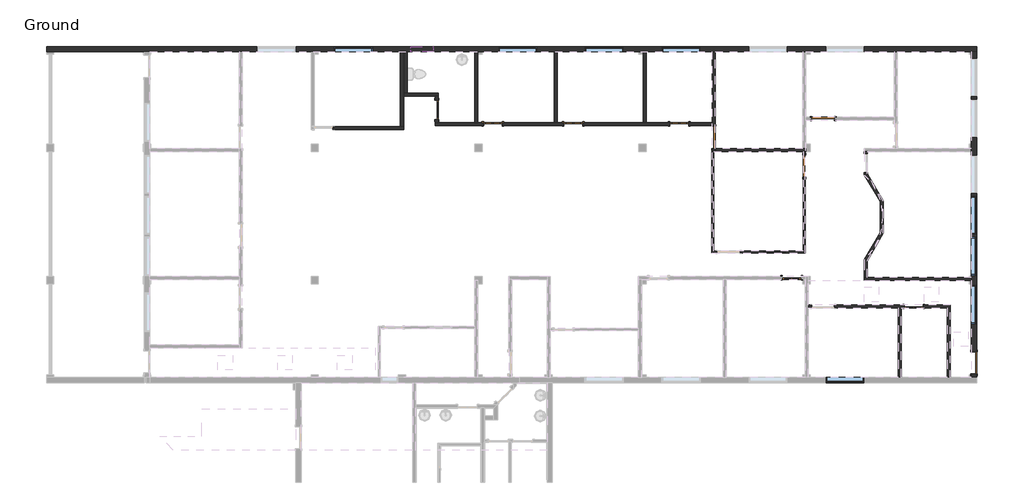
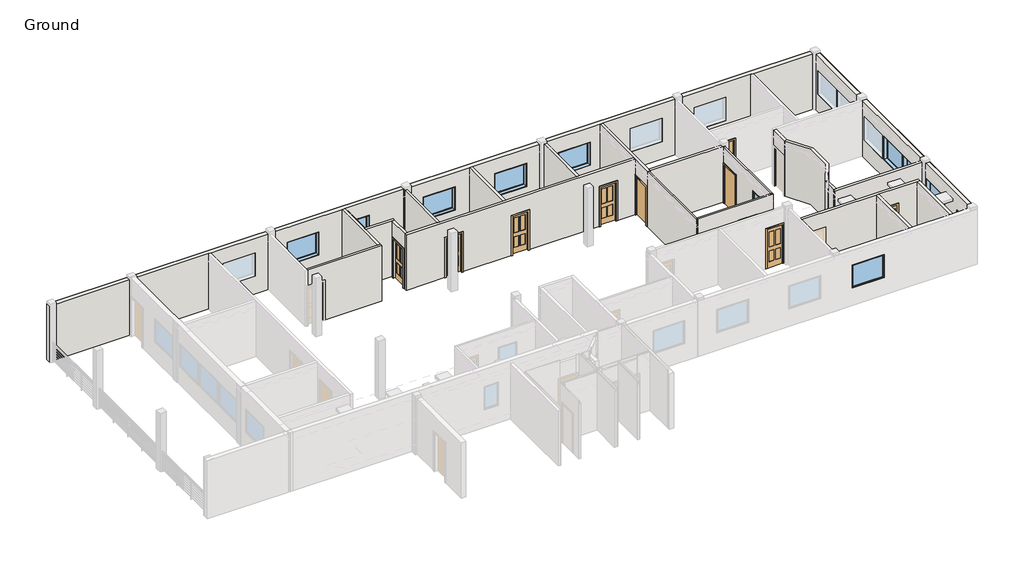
# One storey, part 3 of 4: 23 walls, 11 windows, 10 doors.
"""IFC4 building model written with IfcOpenShell, lengths in millimetres."""

from ifc_helpers import new_model, si_unit, point, frame, frame_2d, origin, origin_with_axes, place, context, project, spatial, polyline, circle_curve, trimmed, segment, composite_curve, outline, extrude, faceted_brep, transform, mapped, element, save
from components import door_43f271b1, door_0f3f7c0c, door_c0366a91, door_dce19e30, door_bfc1a142, door_dc1c1a0d, door_238e255b, fixed_3_x_3_w3_42a4cb5f, window_74e4fc61, window_a0bf6c86

model = new_model("IFC4")

# Units and contexts
model_context = context("Model", 3, world=origin())
ifc_project = project(units=[si_unit("LENGTHUNIT", "METRE", prefix="MILLI")], contexts=[model_context])

# Site, building, storey
site = spatial("IfcSite", under=ifc_project)
building = spatial("IfcBuilding", under=site)
storey = spatial("IfcBuildingStorey", under=building, Name="Ground", Elevation=0.0)

# Doors
placement = place(None, origin())
door_shape = door_43f271b1(model_context)
element("IfcDoor", 1, ObjectType="Single-Flush : 36\" x 80\" - D1", at=placement, inside=storey, context=model_context, shape_type="MappedRepresentation", body=[
    mapped(door_shape, transform((-16750.902824, 18800.73529, 0.0), x_axis=(0.0, -0.9999999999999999, 0.0), y_axis=(0.9999999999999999, 0.0, 0.0), z_axis=(0.0, 0.0, 1.0))),
])
door_2_shape = door_0f3f7c0c(model_context)
element("IfcDoor", 2, ObjectType="Single-Flush : 36\" x 80\" - D1", at=placement, inside=storey, context=model_context, shape_type="MappedRepresentation", body=[
    mapped(door_2_shape, transform((-12274.152824, 19570.67279, 0.0), x_axis=(-1.0, 0.0, 0.0), y_axis=(0.0, -1.0, 0.0), z_axis=(0.0, 0.0, 1.0))),
])
door_3_shape = door_c0366a91(model_context)
element("IfcDoor", 3, ObjectType="Single-Flush : 36\" x 80\" - D1", at=placement, inside=storey, context=model_context, shape_type="MappedRepresentation", body=[
    mapped(door_3_shape, transform((-13044.090324, 17627.57279, 0.0), x_axis=(0.0, 1.0, 0.0), y_axis=(-1.0, 0.0, 0.0), z_axis=(0.0, 0.0, 1.0))),
])
door_4_shape = door_dce19e30(model_context)
element("IfcDoor", 4, ObjectType="Single-Flush : 36\" x 80\" - D1", at=placement, inside=storey, context=model_context, shape_type="MappedRepresentation", body=[
    mapped(door_4_shape, transform((-6095.602824, 9569.42279, 0.0), x_axis=(0.0, -0.9999999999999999, 0.0), y_axis=(0.9999999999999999, 0.0, 0.0), z_axis=(0.0, 0.0, 1.0))),
])
door_5_shape = door_bfc1a142(model_context)
element("IfcDoor", 5, ObjectType="Single-Glass 3 : 30\" x 80\" - D3", at=placement, inside=storey, context=model_context, shape_type="MappedRepresentation", body=[
    mapped(door_5_shape, transform((-25786.952824, 19354.77279, 0.0), x_axis=(-1.0, 0.0, 0.0), y_axis=(0.0, -1.0, 0.0), z_axis=(0.0, 0.0, 1.0))),
])
element("IfcDoor", 6, ObjectType="Single-Glass 3 : 30\" x 80\" - D3", at=placement, inside=storey, context=model_context, shape_type="MappedRepresentation", body=[
    mapped(door_5_shape, transform((-13556.852824, 13055.57279, 0.0), x_axis=(1.0, 0.0, 0.0), y_axis=(0.0, 1.0, 0.0), z_axis=(0.0, 0.0, 1.0))),
])
element("IfcDoor", 7, ObjectType="Single-Glass 3 : 30\" x 80\" - D3", at=placement, inside=storey, context=model_context, shape_type="MappedRepresentation", body=[
    mapped(door_5_shape, transform((-22497.652824, 19354.77279, 0.0), x_axis=(-1.0, 0.0, 0.0), y_axis=(0.0, -1.0, 0.0), z_axis=(0.0, 0.0, 1.0))),
])
door_6_shape = door_dc1c1a0d(model_context)
element("IfcDoor", 8, ObjectType="Single-Glass 3 : 30\" x 80\" - D3", at=placement, inside=storey, context=model_context, shape_type="MappedRepresentation", body=[
    mapped(door_6_shape, transform((-8567.340324, 11880.82279, 0.0), x_axis=(-0.9999999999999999, 0.0, 0.0), y_axis=(0.0, -0.9999999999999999, 0.0), z_axis=(0.0, 0.0, 1.0))),
])
element("IfcDoor", 9, ObjectType="Single-Glass 3 : 30\" x 80\" - D3", at=placement, inside=storey, context=model_context, shape_type="MappedRepresentation", body=[
    mapped(door_6_shape, transform((-18159.809074, 19354.77279, 0.0), x_axis=(1.0, 0.0, 0.0), y_axis=(0.0, 1.0, 0.0), z_axis=(0.0, 0.0, 1.0))),
])
door_7_shape = door_238e255b(model_context)
element("IfcDoor", 10, ObjectType="Single-Glass 3 : 32\" x 80\" - D2", at=placement, inside=storey, context=model_context, shape_type="MappedRepresentation", body=[
    mapped(door_7_shape, transform((-28079.302824, 19932.62279, 0.0), x_axis=(0.0, -1.0, 0.0), y_axis=(1.0, 0.0, 0.0), z_axis=(0.0, 0.0, 1.0))),
])

# Walls
element("IfcWall", 11, ObjectType="Generic - 6\"", at=placement, inside=storey, context=model_context, shape_type="SweptSolid", body=[
    extrude(outline(polyline([(-29439.790324, 20623.18529), (-29439.790324, 22307.52279), (-29287.390324, 22307.52279), (-29287.390324, 20623.18529), (-29439.790324, 20623.18529)])), origin_with_axes(), (0.0, 0.0, 1.0), 2743.2),
])
element("IfcWall", 12, ObjectType="Generic - 8\" Masonry existing", at=placement, inside=storey, context=model_context, shape_type="Brep", body=[
    faceted_brep([(-44043.202824, 22307.52279, 0.0), (-44043.202824, 22307.52279, 2895.6), (-44043.202824, 22513.89779, 2895.6), (-44043.202824, 22526.59779, 2895.6), (-44043.202824, 22526.59779, 0.0), (-5986.065324, 22307.52279, 0.0), (-6205.140324, 22307.52279, 0.0), (-9248.377824, 22307.52279, 0.0), (-9372.202824, 22307.52279, 0.0), (-12982.177824, 22307.52279, 0.0), (-13106.002824, 22307.52279, 0.0), (-16688.990324, 22307.52279, 0.0), (-16812.815324, 22307.52279, 0.0), (-19506.802824, 22307.52279, 0.0), (-19630.627824, 22307.52279, 0.0), (-23140.590324, 22307.52279, 0.0), (-23264.415324, 22307.52279, 0.0), (-26393.377824, 22307.52279, 0.0), (-26517.202824, 22307.52279, 0.0), (-29287.390324, 22307.52279, 0.0), (-29439.790324, 22307.52279, 0.0), (-29563.615324, 22307.52279, 0.0), (-33098.977824, 22307.52279, 0.0), (-33222.802824, 22307.52279, 0.0), (-36042.202824, 22307.52279, 0.0), (-36166.027824, 22307.52279, 0.0), (-39818.865324, 22307.52279, 0.0), (-40037.940324, 22307.52279, 0.0), (-5986.065324, 22526.59779, 0.0), (-5986.065324, 22307.52279, 2895.6), (-5998.765324, 22307.52279, 2895.6), (-6205.140324, 22307.52279, 2895.6), (-9248.377824, 22307.52279, 2895.6), (-9372.202824, 22307.52279, 2895.6), (-12982.177824, 22307.52279, 2895.6), (-13106.002824, 22307.52279, 2895.6), (-16688.990324, 22307.52279, 2895.6), (-16812.815324, 22307.52279, 2895.6), (-19506.802824, 22307.52279, 2895.6), (-19630.627824, 22307.52279, 2895.6), (-23140.590324, 22307.52279, 2895.6), (-23264.415324, 22307.52279, 2895.6), (-26393.377824, 22307.52279, 2895.6), (-26517.202824, 22307.52279, 2895.6), (-29439.790324, 22307.52279, 2895.6), (-29563.615324, 22307.52279, 2895.6), (-33098.977824, 22307.52279, 2895.6), (-33222.802824, 22307.52279, 2895.6), (-36042.202824, 22307.52279, 2895.6), (-36166.027824, 22307.52279, 2895.6), (-28220.590324, 22307.52279, 2133.6), (-28220.590324, 22307.52279, 1219.2), (-29134.990324, 22307.52279, 1219.2), (-29134.990324, 22307.52279, 2133.6), (-17297.002824, 22307.52279, 2133.6), (-17297.002824, 22307.52279, 914.4), (-18871.802824, 22307.52279, 914.4), (-18871.802824, 22307.52279, 2133.6), (-20446.602824, 22307.52279, 2133.6), (-20446.602824, 22307.52279, 914.4), (-22021.402824, 22307.52279, 914.4), (-22021.402824, 22307.52279, 2133.6), (-10591.402824, 22307.52279, 2133.6), (-10591.402824, 22307.52279, 914.4), (-12166.202824, 22307.52279, 914.4), (-12166.202824, 22307.52279, 2133.6), (-13741.002824, 22307.52279, 2133.6), (-13741.002824, 22307.52279, 914.4), (-15315.802824, 22307.52279, 914.4), (-15315.802824, 22307.52279, 2133.6), (-23977.202824, 22307.52279, 2133.6), (-23977.202824, 22307.52279, 914.4), (-25552.002824, 22307.52279, 914.4), (-25552.002824, 22307.52279, 2133.6), (-30708.202824, 22307.52279, 2133.6), (-30708.202824, 22307.52279, 914.4), (-32283.002824, 22307.52279, 914.4), (-32283.002824, 22307.52279, 2133.6), (-33857.802824, 22307.52279, 2133.6), (-33857.802824, 22307.52279, 914.4), (-35432.602824, 22307.52279, 914.4), (-35432.602824, 22307.52279, 2133.6), (-5998.765324, 22526.59779, 2895.6), (-5986.065324, 22526.59779, 2895.6), (-28220.590324, 22526.59779, 2133.6), (-29134.990324, 22526.59779, 2133.6), (-29134.990324, 22526.59779, 1219.2), (-28220.590324, 22526.59779, 1219.2), (-17297.002824, 22526.59779, 2133.6), (-18871.802824, 22526.59779, 2133.6), (-18871.802824, 22526.59779, 914.4), (-17297.002824, 22526.59779, 914.4), (-20446.602824, 22526.59779, 2133.6), (-22021.402824, 22526.59779, 2133.6), (-22021.402824, 22526.59779, 914.4), (-20446.602824, 22526.59779, 914.4), (-10591.402824, 22526.59779, 2133.6), (-12166.202824, 22526.59779, 2133.6), (-12166.202824, 22526.59779, 914.4), (-10591.402824, 22526.59779, 914.4), (-13741.002824, 22526.59779, 2133.6), (-15315.802824, 22526.59779, 2133.6), (-15315.802824, 22526.59779, 914.4), (-13741.002824, 22526.59779, 914.4), (-23977.202824, 22526.59779, 2133.6), (-25552.002824, 22526.59779, 2133.6), (-25552.002824, 22526.59779, 914.4), (-23977.202824, 22526.59779, 914.4), (-30708.202824, 22526.59779, 2133.6), (-32283.002824, 22526.59779, 2133.6), (-32283.002824, 22526.59779, 914.4), (-30708.202824, 22526.59779, 914.4), (-33857.802824, 22526.59779, 2133.6), (-35432.602824, 22526.59779, 2133.6), (-35432.602824, 22526.59779, 914.4), (-33857.802824, 22526.59779, 914.4), (-5986.065324, 22513.89779, 2895.6), (-5998.765324, 22513.89779, 2895.6)], [[[0, 1, 2, 3, 4]], [[5, 6, 7, 8, 9, 10, 11, 12, 13, 14, 15, 16, 17, 18, 19, 20, 21, 22, 23, 24, 25, 26, 27, 0, 4, 28]], [[0, 27, 26, 25, 24, 23, 22, 21, 20, 19, 18, 17, 16, 15, 14, 13, 12, 11, 10, 9, 8, 7, 6, 5, 29, 30, 31, 32, 33, 34, 35, 36, 37, 38, 39, 40, 41, 42, 43, 44, 45, 46, 47, 48, 49, 1], [50, 51, 52, 53], [54, 55, 56, 57], [58, 59, 60, 61], [62, 63, 64, 65], [66, 67, 68, 69], [70, 71, 72, 73], [74, 75, 76, 77], [78, 79, 80, 81]], [[4, 3, 82, 83, 28], [84, 85, 86, 87], [88, 89, 90, 91], [92, 93, 94, 95], [96, 97, 98, 99], [100, 101, 102, 103], [104, 105, 106, 107], [108, 109, 110, 111], [112, 113, 114, 115]], [[29, 5, 28, 83, 116]], [[30, 29, 116, 117]], [[82, 3, 2, 117]], [[116, 83, 82, 117]], [[1, 49, 48, 47, 46, 45, 44, 43, 42, 41, 40, 39, 38, 37, 36, 35, 34, 33, 32, 31, 30, 117, 2]], [[51, 50, 84, 87]], [[52, 51, 87, 86]], [[53, 52, 86, 85]], [[50, 53, 85, 84]], [[55, 54, 88, 91]], [[56, 55, 91, 90]], [[57, 56, 90, 89]], [[54, 57, 89, 88]], [[59, 58, 92, 95]], [[60, 59, 95, 94]], [[61, 60, 94, 93]], [[58, 61, 93, 92]], [[63, 62, 96, 99]], [[64, 63, 99, 98]], [[65, 64, 98, 97]], [[62, 65, 97, 96]], [[67, 66, 100, 103]], [[68, 67, 103, 102]], [[69, 68, 102, 101]], [[66, 69, 101, 100]], [[71, 70, 104, 107]], [[72, 71, 107, 106]], [[73, 72, 106, 105]], [[70, 73, 105, 104]], [[75, 74, 108, 111]], [[76, 75, 111, 110]], [[77, 76, 110, 109]], [[74, 77, 109, 108]], [[79, 78, 112, 115]], [[80, 79, 115, 114]], [[81, 80, 114, 113]], [[78, 81, 113, 112]]]),
])
element("IfcWall", 13, ObjectType="Generic - 8\" Masonry existing", at=placement, inside=storey, context=model_context, shape_type="Brep", body=[
    faceted_brep([(-6205.140324, 8972.52279, 0.0), (-6205.140324, 9112.22279, 0.0), (-5986.065324, 9112.22279, 0.0), (-5986.065324, 8972.52279, 0.0), (-6205.140324, 10026.62279, 0.0), (-6205.140324, 12949.21029, 0.0), (-6205.140324, 13073.03529, 0.0), (-6205.140324, 18219.71029, 0.0), (-6205.140324, 18343.53529, 0.0), (-6205.140324, 22307.52279, 0.0), (-5986.065324, 22307.52279, 0.0), (-5986.065324, 10026.62279, 0.0), (-5986.065324, 9112.22279, 2032.0), (-5986.065324, 10026.62279, 2032.0), (-5986.065324, 22307.52279, 2895.6), (-5986.065324, 8972.52279, 2895.6), (-5986.065324, 11169.62279, 2133.6), (-5986.065324, 12744.42279, 2133.6), (-5986.065324, 12744.42279, 914.4), (-5986.065324, 11169.62279, 914.4), (-5986.065324, 13150.82279, 2133.6), (-5986.065324, 14725.62279, 2133.6), (-5986.065324, 14725.62279, 914.4), (-5986.065324, 13150.82279, 914.4), (-5986.065324, 14827.22279, 2133.6), (-5986.065324, 16402.02279, 2133.6), (-5986.065324, 16402.02279, 914.4), (-5986.065324, 14827.22279, 914.4), (-5986.065324, 16503.62279, 2133.6), (-5986.065324, 18078.42279, 2133.6), (-5986.065324, 18078.42279, 914.4), (-5986.065324, 16503.62279, 914.4), (-5986.065324, 18789.62279, 2133.6), (-5986.065324, 20364.42279, 2133.6), (-5986.065324, 20364.42279, 914.4), (-5986.065324, 18789.62279, 914.4), (-5986.065324, 20466.02279, 2133.6), (-5986.065324, 22040.82279, 2133.6), (-5986.065324, 22040.82279, 914.4), (-5986.065324, 20466.02279, 914.4), (-6205.140324, 9112.22279, 2032.0), (-6205.140324, 8972.52279, 2895.6), (-6205.140324, 12949.21029, 2895.6), (-6205.140324, 13073.03529, 2895.6), (-6205.140324, 18219.71029, 2895.6), (-6205.140324, 18343.53529, 2895.6), (-6205.140324, 22307.52279, 2895.6), (-6205.140324, 10026.62279, 2032.0), (-6205.140324, 11169.62279, 2133.6), (-6205.140324, 11169.62279, 914.4), (-6205.140324, 12744.42279, 914.4), (-6205.140324, 12744.42279, 2133.6), (-6205.140324, 13150.82279, 2133.6), (-6205.140324, 13150.82279, 914.4), (-6205.140324, 14725.62279, 914.4), (-6205.140324, 14725.62279, 2133.6), (-6205.140324, 14827.22279, 2133.6), (-6205.140324, 14827.22279, 914.4), (-6205.140324, 16402.02279, 914.4), (-6205.140324, 16402.02279, 2133.6), (-6205.140324, 16503.62279, 2133.6), (-6205.140324, 16503.62279, 914.4), (-6205.140324, 18078.42279, 914.4), (-6205.140324, 18078.42279, 2133.6), (-6205.140324, 18789.62279, 2133.6), (-6205.140324, 18789.62279, 914.4), (-6205.140324, 20364.42279, 914.4), (-6205.140324, 20364.42279, 2133.6), (-6205.140324, 20466.02279, 2133.6), (-6205.140324, 20466.02279, 914.4), (-6205.140324, 22040.82279, 914.4), (-6205.140324, 22040.82279, 2133.6), (-5998.765324, 22307.52279, 2895.6), (-5998.765324, 8972.52279, 2895.6)], [[[0, 1, 2, 3]], [[4, 5, 6, 7, 8, 9, 10, 11]], [[3, 2, 12, 13, 11, 10, 14, 15], [16, 17, 18, 19], [20, 21, 22, 23], [24, 25, 26, 27], [28, 29, 30, 31], [32, 33, 34, 35], [36, 37, 38, 39]], [[40, 1, 0, 41, 42, 43, 44, 45, 46, 9, 8, 7, 6, 5, 4, 47], [48, 49, 50, 51], [52, 53, 54, 55], [56, 57, 58, 59], [60, 61, 62, 63], [64, 65, 66, 67], [68, 69, 70, 71]], [[14, 10, 9, 46, 72]], [[3, 15, 73, 41, 0]], [[15, 14, 72, 73]], [[72, 46, 45, 44, 43, 42, 41, 73]], [[12, 2, 1, 40]], [[13, 12, 40, 47]], [[11, 13, 47, 4]], [[49, 48, 16, 19]], [[50, 49, 19, 18]], [[51, 50, 18, 17]], [[48, 51, 17, 16]], [[53, 52, 20, 23]], [[54, 53, 23, 22]], [[55, 54, 22, 21]], [[52, 55, 21, 20]], [[57, 56, 24, 27]], [[58, 57, 27, 26]], [[59, 58, 26, 25]], [[56, 59, 25, 24]], [[61, 60, 28, 31]], [[62, 61, 31, 30]], [[63, 62, 30, 29]], [[60, 63, 29, 28]], [[65, 64, 32, 35]], [[66, 65, 35, 34]], [[67, 66, 34, 33]], [[64, 67, 33, 32]], [[69, 68, 36, 39]], [[70, 69, 39, 38]], [[71, 70, 38, 37]], [[68, 71, 37, 36]]]),
])
element("IfcWall", 14, ObjectType="Interior - 3 1/8\" Partition (1-hr)", at=placement, inside=storey, context=model_context, shape_type="Brep", body=[
    faceted_brep([(-16820.752824, 18219.71029, 0.0), (-16820.752824, 14071.57279, 0.0), (-16820.752824, 14071.57279, 2895.6), (-16820.752824, 18219.71029, 2895.6), (-16741.377824, 18219.71029, 0.0), (-16741.377824, 18219.71029, 2895.6), (-16741.377824, 14150.94779, 2895.6), (-16741.377824, 14071.57279, 2895.6), (-16741.377824, 14071.57279, 0.0), (-16741.377824, 14150.94779, 0.0), (-16812.815324, 18219.71029, 0.0), (-16812.815324, 18219.71029, 2895.6)], [[[0, 1, 2, 3]], [[4, 5, 6, 7, 8, 9]], [[1, 0, 10, 4, 9, 8]], [[3, 2, 7, 6, 5, 11]], [[2, 1, 8, 7]], [[0, 3, 11, 5, 4, 10]]]),
])
element("IfcWall", 15, ObjectType="Interior - 3 1/8\" Partition (1-hr)", at=placement, inside=storey, context=model_context, shape_type="Brep", body=[
    faceted_brep([(-16741.377824, 14071.57279, 0.0), (-16598.502824, 14071.57279, 0.0), (-16598.502824, 14071.57279, 2032.0), (-15684.102824, 14071.57279, 2032.0), (-15684.102824, 14071.57279, 0.0), (-13004.402824, 14071.57279, 0.0), (-13004.402824, 14071.57279, 2895.6), (-16741.377824, 14071.57279, 2895.6), (-14720.490324, 14071.57279, 2133.6), (-13806.090324, 14071.57279, 2133.6), (-13806.090324, 14071.57279, 914.4), (-14720.490324, 14071.57279, 914.4), (-16598.502824, 14150.94779, 2032.0), (-16598.502824, 14150.94779, 0.0), (-16741.377824, 14150.94779, 0.0), (-16741.377824, 14150.94779, 2895.6), (-13083.777824, 14150.94779, 2895.6), (-13004.402824, 14150.94779, 2895.6), (-13004.402824, 14150.94779, 0.0), (-13083.777824, 14150.94779, 0.0), (-15684.102824, 14150.94779, 0.0), (-15684.102824, 14150.94779, 2032.0), (-14720.490324, 14150.94779, 2133.6), (-14720.490324, 14150.94779, 914.4), (-13806.090324, 14150.94779, 914.4), (-13806.090324, 14150.94779, 2133.6)], [[[0, 1, 2, 3, 4, 5, 6, 7], [8, 9, 10, 11]], [[12, 13, 14, 15, 16, 17, 18, 19, 20, 21], [22, 23, 24, 25]], [[14, 13, 1, 0]], [[20, 19, 18, 5, 4]], [[7, 6, 17, 16, 15]], [[0, 7, 15, 14]], [[6, 5, 18, 17]], [[2, 1, 13, 12]], [[3, 2, 12, 21]], [[4, 3, 21, 20]], [[23, 22, 8, 11]], [[24, 23, 11, 10]], [[25, 24, 10, 9]], [[22, 25, 9, 8]]]),
])
element("IfcWall", 16, ObjectType="Interior - 3 1/8\" Partition (1-hr)", at=placement, inside=storey, context=model_context, shape_type="SweptSolid", body=[
    extrude(outline(polyline([(18219.71029, 0.0), (18084.77279, 0.0), (18084.77279, 2032.0), (17170.37279, 2032.0), (17170.37279, 0.0), (14150.94779, 0.0), (14150.94779, 2895.6), (18219.71029, 2895.6), (18219.71029, 0.0)]), holes=[polyline([(14760.54779, 2133.6), (14760.54779, 914.4), (15674.94779, 914.4), (15674.94779, 2133.6), (14760.54779, 2133.6)])]), frame((-13083.777824, 0.0, 0.0), z_axis=(1.0, 0.0, 0.0), x_axis=(0.0, 1.0, 0.0)), (0.0, 0.0, 1.0), 79.375),
])
element("IfcWall", 17, ObjectType="Interior - 5 1/2\" Partition (1-hr)", at=placement, inside=storey, context=model_context, shape_type="Brep", body=[
    faceted_brep([(-6205.140324, 13073.03529, 0.0), (-10467.577824, 13073.03529, 0.0), (-10591.402824, 13073.03529, 0.0), (-10591.402824, 13073.03529, 2895.6), (-10467.577824, 13073.03529, 2895.6), (-6205.140324, 13073.03529, 2895.6), (-6205.140324, 12949.21029, 0.0), (-6205.140324, 12949.21029, 2895.6), (-10591.402824, 12949.21029, 2895.6), (-10591.402824, 12949.21029, 0.0)], [[[0, 1, 2, 3, 4, 5]], [[6, 7, 8, 9]], [[2, 1, 0, 6, 9]], [[5, 4, 3, 8, 7]], [[3, 2, 9, 8]], [[0, 5, 7, 6]]]),
])
element("IfcWall", 18, ObjectType="Interior - 5 1/2\" Partition (1-hr)", at=placement, inside=storey, context=model_context, shape_type="Brep", body=[
    faceted_brep([(-12982.177824, 18343.53529, 0.0), (-13106.002824, 18343.53529, 0.0), (-16688.990324, 18343.53529, 0.0), (-16688.990324, 18343.53529, 2895.6), (-13106.002824, 18343.53529, 2895.6), (-12982.177824, 18343.53529, 2895.6), (-12982.177824, 18219.71029, 0.0), (-12982.177824, 18219.71029, 2895.6), (-13004.402824, 18219.71029, 2895.6), (-13083.777824, 18219.71029, 2895.6), (-16688.990324, 18219.71029, 2895.6), (-16688.990324, 18219.71029, 0.0), (-13083.777824, 18219.71029, 0.0), (-13004.402824, 18219.71029, 0.0)], [[[0, 1, 2, 3, 4, 5]], [[6, 7, 8, 9, 10, 11, 12, 13]], [[2, 1, 0, 6, 13, 12, 11]], [[5, 4, 3, 10, 9, 8, 7]], [[0, 5, 7, 6]], [[3, 2, 11, 10]]]),
])
element("IfcWall", 19, ObjectType="Interior - 5 1/2\" Partition (1-hr)", at=placement, inside=storey, context=model_context, shape_type="Brep", body=[
    faceted_brep([(-16812.815324, 18219.71029, 0.0), (-16812.815324, 18343.53529, 0.0), (-16688.990324, 18343.53529, 0.0), (-16688.990324, 18219.71029, 0.0), (-16741.377824, 18219.71029, 0.0), (-16812.815324, 19257.93529, 0.0), (-16812.815324, 19292.86029, 0.0), (-16812.815324, 19416.68529, 0.0), (-16812.815324, 22307.52279, 0.0), (-16688.990324, 22307.52279, 0.0), (-16688.990324, 19257.93529, 0.0), (-16688.990324, 18219.71029, 2895.6), (-16688.990324, 18343.53529, 2895.6), (-16688.990324, 22307.52279, 2895.6), (-16812.815324, 22307.52279, 2895.6), (-16812.815324, 19416.68529, 2895.6), (-16812.815324, 19292.86029, 2895.6), (-16812.815324, 18219.71029, 2895.6), (-16741.377824, 18219.71029, 2895.6), (-16688.990324, 18343.53529, 2032.0), (-16688.990324, 19257.93529, 2032.0), (-16812.815324, 18343.53529, 2032.0), (-16812.815324, 19257.93529, 2032.0)], [[[0, 1, 2, 3, 4]], [[5, 6, 7, 8, 9, 10]], [[11, 12, 13, 14, 15, 16, 17, 18]], [[3, 2, 19, 20, 10, 9, 13, 12, 11]], [[21, 1, 0, 17, 16, 15, 14, 8, 7, 6, 5, 22]], [[13, 9, 8, 14]], [[3, 11, 18, 17, 0, 4]], [[19, 2, 1, 21]], [[20, 19, 21, 22]], [[10, 20, 22, 5]]]),
])
element("IfcWall", 20, ObjectType="Interior - 5 1/2\" Partition (1-hr)", at=placement, inside=storey, context=model_context, shape_type="SweptSolid", body=[
    extrude(outline(composite_curve([segment(polyline([(-10467.577824, 13753.2813276), (-10591.402824, 13806.060194)]), True, "CONTINUOUS"), segment(trimmed(circle_curve(frame_2d((-12218.244142, 15538.42279)), 2376.4875), [point((-10591.402824, 13806.060194))], [point((-10591.402824, 17270.785386))], True, "CARTESIAN"), True, "CONTINUOUS"), segment(polyline([(-10591.402824, 17270.785386), (-10467.577824, 17323.5642525)]), True, "CONTINUOUS"), segment(trimmed(circle_curve(frame_2d((-12218.244142, 15538.42279)), 2500.3125), [point((-10467.577824, 17323.5642525))], [point((-10467.577824, 13753.2813276))], False, "CARTESIAN"), True, "CONTINUOUS")], self_intersect=False)), origin_with_axes(), (0.0, 0.0, 1.0), 2895.6),
])
element("IfcWall", 21, ObjectType="Interior - 5 1/2\" Partition (1-hr)", at=placement, inside=storey, context=model_context, shape_type="SweptSolid", body=[
    extrude(outline(polyline([(-10591.402824, 13073.03529), (-10591.402824, 13806.060194), (-10467.577824, 13753.2813276), (-10467.577824, 13073.03529), (-10591.402824, 13073.03529)])), origin_with_axes(), (0.0, 0.0, 1.0), 2895.6),
])
element("IfcWall", 22, ObjectType="Interior - 5 1/2\" Partition (1-hr)", at=placement, inside=storey, context=model_context, shape_type="Brep", body=[
    faceted_brep([(-10467.577824, 18219.71029, 0.0), (-10467.577824, 18135.4487735, 0.0), (-10591.402824, 18135.4487735, 0.0), (-10591.402824, 18219.71029, 0.0), (-10467.577824, 17373.4487735, 0.0), (-10467.577824, 17323.5642525, 0.0), (-10591.402824, 17270.785386, 0.0), (-10591.402824, 17373.4487735, 0.0), (-10591.402824, 18219.71029, 2895.6), (-10591.402824, 17270.785386, 2895.6), (-10467.577824, 17323.5642525, 2895.6), (-10467.577824, 18219.71029, 2895.6), (-10591.402824, 18135.4487735, 2032.0), (-10591.402824, 17373.4487735, 2032.0), (-10467.577824, 18135.4487735, 2032.0), (-10467.577824, 17373.4487735, 2032.0)], [[[0, 1, 2, 3]], [[4, 5, 6, 7]], [[8, 9, 10, 11]], [[3, 2, 12, 13, 7, 6, 9, 8]], [[14, 1, 0, 11, 10, 5, 4, 15]], [[9, 6, 5, 10]], [[3, 8, 11, 0]], [[12, 2, 1, 14]], [[13, 12, 14, 15]], [[7, 13, 15, 4]]]),
])
element("IfcWall", 23, ObjectType="Interior - 5 1/2\" Partition (1-hr)", at=placement, inside=storey, context=model_context, shape_type="Brep", body=[
    faceted_brep([(-29439.790324, 19242.06029, 0.0), (-29439.790324, 19118.23529, 0.0), (-32336.8538075, 19118.23529, 0.0), (-32336.8538075, 19242.06029, 0.0), (-29563.615324, 19242.06029, 0.0), (-33098.977824, 19118.23529, 2895.6), (-29439.790324, 19118.23529, 2895.6), (-29439.790324, 19242.06029, 2895.6), (-29563.615324, 19242.06029, 2895.6), (-33098.977824, 19242.06029, 2895.6), (-33098.977824, 19118.23529, 2032.0), (-32336.8538075, 19118.23529, 2032.0), (-32336.8538075, 19242.06029, 2032.0), (-33098.977824, 19242.06029, 2032.0)], [[[0, 1, 2, 3, 4]], [[5, 6, 7, 8, 9]], [[6, 5, 10, 11, 2, 1]], [[9, 8, 7, 0, 4, 3, 12, 13]], [[5, 9, 13, 10]], [[6, 1, 0, 7]], [[12, 11, 10, 13]], [[11, 12, 3, 2]]]),
])
element("IfcWall", 24, ObjectType="Interior - 5 1/2\" Partition (1-hr)", at=placement, inside=storey, context=model_context, shape_type="Brep", body=[
    faceted_brep([(-29439.790324, 19242.06029, 0.0), (-29439.790324, 20499.36029, 0.0), (-29439.790324, 20623.18529, 0.0), (-29439.790324, 22307.52279, 0.0), (-29439.790324, 22307.52279, 2895.6), (-29439.790324, 20623.18529, 2895.6), (-29439.790324, 20499.36029, 2895.6), (-29439.790324, 19242.06029, 2895.6), (-29563.615324, 19242.06029, 0.0), (-29563.615324, 19242.06029, 2895.6), (-29563.615324, 22307.52279, 2895.6), (-29563.615324, 22307.52279, 0.0)], [[[0, 1, 2, 3, 4, 5, 6, 7]], [[8, 9, 10, 11]], [[3, 2, 1, 0, 8, 11]], [[7, 6, 5, 4, 10, 9]], [[4, 3, 11, 10]], [[0, 7, 9, 8]]]),
])
element("IfcWall", 25, ObjectType="Interior - 5 1/2\" Partition (1-hr)", at=placement, inside=storey, context=model_context, shape_type="SweptSolid", body=[
    extrude(outline(polyline([(-26517.202824, 19416.68529), (-26517.202824, 22307.52279), (-26393.377824, 22307.52279), (-26393.377824, 19416.68529), (-26517.202824, 19416.68529)])), origin_with_axes(), (0.0, 0.0, 1.0), 2895.6),
])
element("IfcWall", 26, ObjectType="Interior - 5 1/2\" Partition (1-hr)", at=placement, inside=storey, context=model_context, shape_type="SweptSolid", body=[
    extrude(outline(polyline([(-23140.590324, 22307.52279), (-23140.590324, 19416.68529), (-23264.415324, 19416.68529), (-23264.415324, 22307.52279), (-23140.590324, 22307.52279)])), origin_with_axes(), (0.0, 0.0, 1.0), 2895.6),
])
element("IfcWall", 27, ObjectType="Interior - 5 1/2\" Partition (1-hr)", at=placement, inside=storey, context=model_context, shape_type="Brep", body=[
    faceted_brep([(-8948.2163075, 11942.73529, 2032.0), (-8948.2163075, 11942.73529, 0.0), (-11816.952824, 11942.73529, 0.0), (-11816.952824, 11942.73529, 2032.0), (-12731.352824, 11942.73529, 2032.0), (-12731.352824, 11942.73529, 0.0), (-12891.690324, 11942.73529, 0.0), (-12891.690324, 11942.73529, 2895.6), (-7071.915324, 11942.73529, 2895.6), (-7071.915324, 11942.73529, 0.0), (-8186.2163075, 11942.73529, 0.0), (-8186.2163075, 11942.73529, 2032.0), (-11816.952824, 11818.91029, 0.0), (-9207.102824, 11818.91029, 0.0), (-9083.277824, 11818.91029, 0.0), (-8948.2163075, 11818.91029, 0.0), (-8948.2163075, 11818.91029, 2032.0), (-8186.2163075, 11818.91029, 2032.0), (-8186.2163075, 11818.91029, 0.0), (-7195.740324, 11818.91029, 0.0), (-7071.915324, 11818.91029, 0.0), (-7071.915324, 11818.91029, 2895.6), (-7195.740324, 11818.91029, 2895.6), (-9083.277824, 11818.91029, 2895.6), (-9207.102824, 11818.91029, 2895.6), (-12891.690324, 11818.91029, 2895.6), (-12891.690324, 11818.91029, 0.0), (-12731.352824, 11818.91029, 0.0), (-12731.352824, 11818.91029, 2032.0), (-11816.952824, 11818.91029, 2032.0)], [[[0, 1, 2, 3, 4, 5, 6, 7, 8, 9, 10, 11]], [[12, 13, 14, 15, 16, 17, 18, 19, 20, 21, 22, 23, 24, 25, 26, 27, 28, 29]], [[6, 5, 27, 26]], [[2, 1, 15, 14, 13, 12]], [[10, 9, 20, 19, 18]], [[8, 7, 25, 24, 23, 22, 21]], [[9, 8, 21, 20]], [[7, 6, 26, 25]], [[28, 27, 5, 4]], [[29, 28, 4, 3]], [[12, 29, 3, 2]], [[16, 15, 1, 0]], [[17, 16, 0, 11]], [[18, 17, 11, 10]]]),
])
element("IfcWall", 28, ObjectType="Interior - 5 1/2\" Partition (1-hr)", at=placement, inside=storey, context=model_context, shape_type="SweptSolid", body=[
    extrude(outline(polyline([(-19630.627824, 19416.68529), (-19630.627824, 22307.52279), (-19506.802824, 22307.52279), (-19506.802824, 19416.68529), (-19630.627824, 19416.68529)])), origin_with_axes(), (0.0, 0.0, 1.0), 2895.6),
])
element("IfcWall", 29, ObjectType="Interior - 5 1/2\" Partition (1-hr)", at=placement, inside=storey, context=model_context, shape_type="Brep", body=[
    faceted_brep([(-29439.790324, 20499.36029, 0.0), (-28141.215324, 20499.36029, 0.0), (-28017.390324, 20499.36029, 0.0), (-28017.390324, 20499.36029, 2895.6), (-28141.215324, 20499.36029, 2895.6), (-29439.790324, 20499.36029, 2895.6), (-29439.790324, 20623.18529, 0.0), (-29439.790324, 20623.18529, 2743.2), (-29439.790324, 20623.18529, 2895.6), (-28017.390324, 20623.18529, 2895.6), (-28017.390324, 20623.18529, 0.0), (-29287.390324, 20623.18529, 0.0)], [[[0, 1, 2, 3, 4, 5]], [[6, 7, 8, 9, 10, 11]], [[2, 1, 0, 6, 11, 10]], [[5, 4, 3, 9, 8]], [[3, 2, 10, 9]], [[0, 5, 8, 7, 6]]]),
])
element("IfcWall", 30, ObjectType="Interior - 5 1/2\" Partition (1-hr)", at=placement, inside=storey, context=model_context, shape_type="SweptSolid", body=[
    extrude(outline(polyline([(19416.68529, 2895.6), (20499.36029, 2895.6), (20499.36029, 0.0), (20339.1468066, 0.0), (20339.1468066, 2032.0), (19526.3468066, 2032.0), (19526.3468066, 0.0), (19416.68529, 0.0), (19416.68529, 2895.6)])), frame((-28141.215324, 0.0, 0.0), z_axis=(1.0, 0.0, 0.0), x_axis=(0.0, 1.0, 0.0)), (0.0, 0.0, 1.0), 123.825),
])
element("IfcWall", 31, ObjectType="Interior - 5 1/2\" Partition (1-hr)", at=placement, inside=storey, context=model_context, shape_type="Brep", body=[
    faceted_brep([(-28141.215324, 19416.68529, 0.0), (-28017.390324, 19416.68529, 0.0), (-26517.202824, 19416.68529, 0.0), (-26393.377824, 19416.68529, 0.0), (-26167.8288075, 19416.68529, 0.0), (-26167.8288075, 19292.86029, 0.0), (-28141.215324, 19292.86029, 0.0), (-25405.8288075, 19416.68529, 0.0), (-23264.415324, 19416.68529, 0.0), (-23140.590324, 19416.68529, 0.0), (-22878.5288075, 19416.68529, 0.0), (-22878.5288075, 19292.86029, 0.0), (-25405.8288075, 19292.86029, 0.0), (-16812.815324, 19292.86029, 0.0), (-17778.9330906, 19292.86029, 0.0), (-17778.9330906, 19416.68529, 0.0), (-16812.815324, 19416.68529, 0.0), (-18540.9330906, 19292.86029, 0.0), (-22116.5288075, 19292.86029, 0.0), (-22116.5288075, 19416.68529, 0.0), (-19630.627824, 19416.68529, 0.0), (-19506.802824, 19416.68529, 0.0), (-18540.9330906, 19416.68529, 0.0), (-28141.215324, 19292.86029, 2895.6), (-16812.815324, 19292.86029, 2895.6), (-16812.815324, 19416.68529, 2895.6), (-19506.802824, 19416.68529, 2895.6), (-19630.627824, 19416.68529, 2895.6), (-23140.590324, 19416.68529, 2895.6), (-23264.415324, 19416.68529, 2895.6), (-26393.377824, 19416.68529, 2895.6), (-26517.202824, 19416.68529, 2895.6), (-28017.390324, 19416.68529, 2895.6), (-28141.215324, 19416.68529, 2895.6), (-17778.9330906, 19292.86029, 2032.0), (-26167.8288075, 19292.86029, 2032.0), (-25405.8288075, 19292.86029, 2032.0), (-22878.5288075, 19292.86029, 2032.0), (-22116.5288075, 19292.86029, 2032.0), (-18540.9330906, 19292.86029, 2032.0), (-17778.9330906, 19416.68529, 2032.0), (-18540.9330906, 19416.68529, 2032.0), (-22116.5288075, 19416.68529, 2032.0), (-22878.5288075, 19416.68529, 2032.0), (-25405.8288075, 19416.68529, 2032.0), (-26167.8288075, 19416.68529, 2032.0)], [[[0, 1, 2, 3, 4, 5, 6]], [[7, 8, 9, 10, 11, 12]], [[13, 14, 15, 16]], [[17, 18, 19, 20, 21, 22]], [[23, 24, 25, 26, 27, 28, 29, 30, 31, 32, 33]], [[34, 14, 13, 24, 23, 6, 5, 35, 36, 12, 11, 37, 38, 18, 17, 39]], [[16, 15, 40, 41, 22, 21, 20, 19, 42, 43, 10, 9, 8, 7, 44, 45, 4, 3, 2, 1, 0, 33, 32, 31, 30, 29, 28, 27, 26, 25]], [[6, 23, 33, 0]], [[24, 13, 16, 25]], [[35, 5, 4, 45]], [[36, 35, 45, 44]], [[12, 36, 44, 7]], [[37, 11, 10, 43]], [[38, 37, 43, 42]], [[18, 38, 42, 19]], [[40, 15, 14, 34]], [[41, 40, 34, 39]], [[22, 41, 39, 17]]]),
])
element("IfcWall", 32, ObjectType="Interior - 5 1/2\" Partition (1-hr)", at=placement, inside=storey, context=model_context, shape_type="SweptSolid", body=[
    extrude(outline(polyline([(-9207.102824, 8972.52279), (-9207.102824, 11818.91029), (-9083.277824, 11818.91029), (-9083.277824, 8972.52279), (-9207.102824, 8972.52279)])), origin_with_axes(), (0.0, 0.0, 1.0), 2895.6),
])
element("IfcWall", 33, ObjectType="Interior - 5 1/2\" Partition (1-hr)", at=placement, inside=storey, context=model_context, shape_type="SweptSolid", body=[
    extrude(outline(polyline([(-7195.740324, 8972.52279), (-7195.740324, 11818.91029), (-7071.915324, 11818.91029), (-7071.915324, 8972.52279), (-7195.740324, 8972.52279)])), origin_with_axes(), (0.0, 0.0, 1.0), 2895.6),
])

# Windows
fixed_3_x_3_w3_shape = fixed_3_x_3_w3_42a4cb5f(model_context)
element("IfcWindow", 34, ObjectType="Fixed : 3'x 3' - W3", at=placement, inside=storey, context=model_context, shape_type="MappedRepresentation", body=[
    mapped(fixed_3_x_3_w3_shape, transform((-28639.690324, 22417.06029, -304.8), x_axis=(1.0, 0.0, 0.0), y_axis=(0.0, 1.0, 0.0), z_axis=(0.0, 0.0, 1.0))),
])
window_shape = window_74e4fc61(model_context)
element("IfcWindow", 35, ObjectType="Fixed : 36\" x 48\" - W2", at=placement, inside=storey, context=model_context, shape_type="MappedRepresentation", body=[
    mapped(window_shape, transform((-14301.390324, 14111.26029, 0.0), x_axis=(-0.9999999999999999, 0.0, 0.0), y_axis=(0.0, -0.9999999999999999, 0.0), z_axis=(0.0, 0.0, 1.0))),
])
element("IfcWindow", 36, ObjectType="Fixed : 36\" x 48\" - W2", at=placement, inside=storey, context=model_context, shape_type="MappedRepresentation", body=[
    mapped(window_shape, transform((-13044.090324, 15179.64779, 0.0), x_axis=(0.0, -1.0, 0.0), y_axis=(1.0, 0.0, 0.0), z_axis=(0.0, 0.0, 1.0))),
])
window_2_shape = window_a0bf6c86(model_context)
element("IfcWindow", 37, ObjectType="Fixed : 60\" x 48\" - W1", at=placement, inside=storey, context=model_context, shape_type="MappedRepresentation", body=[
    mapped(window_2_shape, transform((-31457.502824, 22417.06029, 0.0), x_axis=(1.0, 0.0, 0.0), y_axis=(0.0, 1.0, 0.0), z_axis=(0.0, 0.0, 1.0))),
])
element("IfcWindow", 38, ObjectType="Fixed : 60\" x 48\" - W1", at=placement, inside=storey, context=model_context, shape_type="MappedRepresentation", body=[
    mapped(window_2_shape, transform((-24726.502824, 22417.06029, 0.0), x_axis=(1.0, 0.0, 0.0), y_axis=(0.0, 1.0, 0.0), z_axis=(0.0, 0.0, 1.0))),
])
element("IfcWindow", 39, ObjectType="Fixed : 60\" x 48\" - W1", at=placement, inside=storey, context=model_context, shape_type="MappedRepresentation", body=[
    mapped(window_2_shape, transform((-21195.902824, 22417.06029, 0.0), x_axis=(1.0, 0.0, 0.0), y_axis=(0.0, 1.0, 0.0), z_axis=(0.0, 0.0, 1.0))),
])
element("IfcWindow", 40, ObjectType="Fixed : 60\" x 48\" - W1", at=placement, inside=storey, context=model_context, shape_type="MappedRepresentation", body=[
    mapped(window_2_shape, transform((-11416.902824, 8862.98529, 0.0), x_axis=(-1.0, 0.0, 0.0), y_axis=(0.0, -1.0, 0.0), z_axis=(0.0, 0.0, 1.0))),
])
element("IfcWindow", 41, ObjectType="Fixed : 60\" x 48\" - W1", at=placement, inside=storey, context=model_context, shape_type="MappedRepresentation", body=[
    mapped(window_2_shape, transform((-6095.602824, 15576.52279, 0.0), x_axis=(0.0, -0.9999999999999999, 0.0), y_axis=(0.9999999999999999, 0.0, 0.0), z_axis=(0.0, 0.0, 1.0))),
])
element("IfcWindow", 42, ObjectType="Fixed : 60\" x 48\" - W1", at=placement, inside=storey, context=model_context, shape_type="MappedRepresentation", body=[
    mapped(window_2_shape, transform((-6095.602824, 13900.12279, 0.0), x_axis=(0.0, -0.9999999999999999, 0.0), y_axis=(0.9999999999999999, 0.0, 0.0), z_axis=(0.0, 0.0, 1.0))),
])
element("IfcWindow", 43, ObjectType="Fixed : 60\" x 48\" - W1", at=placement, inside=storey, context=model_context, shape_type="MappedRepresentation", body=[
    mapped(window_2_shape, transform((-6095.602824, 11918.92279, 0.0), x_axis=(0.0, -0.9999999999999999, 0.0), y_axis=(0.9999999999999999, 0.0, 0.0), z_axis=(0.0, 0.0, 1.0))),
])
element("IfcWindow", 44, ObjectType="Fixed : 60\" x 48\" - W1", at=placement, inside=storey, context=model_context, shape_type="MappedRepresentation", body=[
    mapped(window_2_shape, transform((-18046.302824, 22417.06029, 0.0), x_axis=(1.0, 0.0, 0.0), y_axis=(0.0, 1.0, 0.0), z_axis=(0.0, 0.0, 1.0))),
])

save(model, "model.ifc")
